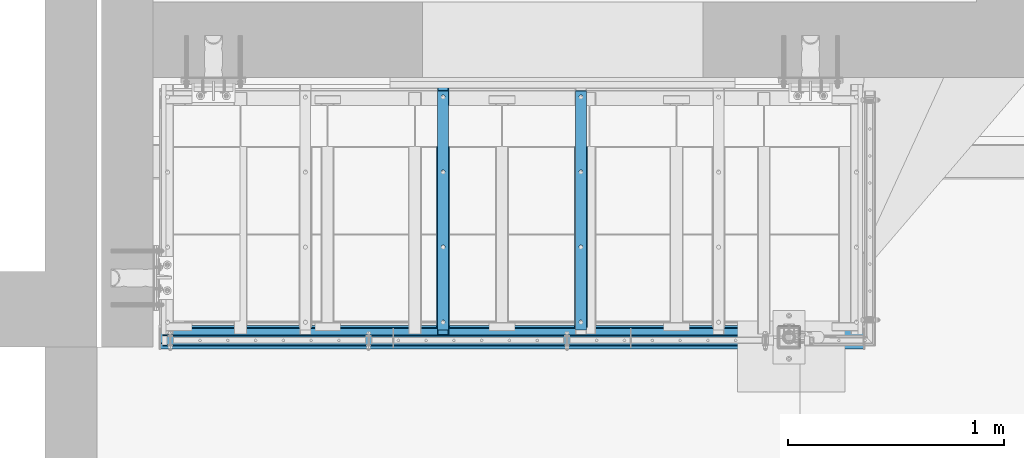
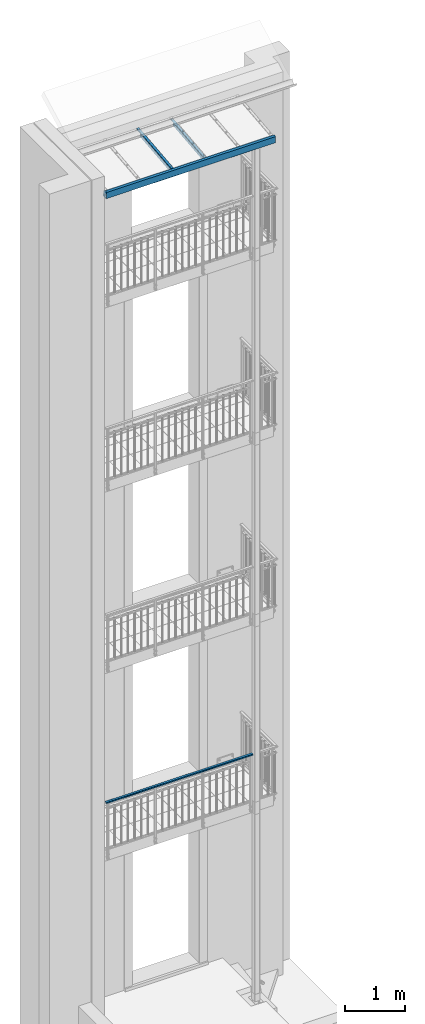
# One storey, part 42 of 162: 5 members, 2 beams, 21 openings.
"""IFC2X3 building model written with IfcOpenShell, lengths in millimetres."""

from ifc_helpers import new_model, entity, si_unit, converted_unit, point, frame, frame_2d, origin, origin_with_axes, origin_2d, origin_2d_with_axis, place, context, project, spatial, polyline, circle_curve, line_curve, trimmed, segment, composite_curve, hollow_rectangle, circle, outline, extrude, material, element, save


model = new_model("IFC2X3")

# Units and contexts
model_context = context("Model", 3, precision=1e-09, world=origin_with_axes())
ifc_project = project(units=[si_unit("LENGTHUNIT", "METRE", prefix="MILLI"), si_unit("AREAUNIT", "SQUARE_METRE"), si_unit("VOLUMEUNIT", "CUBIC_METRE"), converted_unit("PLANEANGLEUNIT", "DEGREE", entity("IfcPlaneAngleMeasure", 0.01745329), si_unit("PLANEANGLEUNIT", "RADIAN"), dimensions=[0, 0, 0, 0, 0, 0, 0])], contexts=[model_context])

# Site, building, storey
site_placement = place(None, origin_with_axes())
site = spatial("IfcSite", under=ifc_project, at=site_placement, Name="Hermannstra?e 1a, 60318 Frankfurt", CompositionType="ELEMENT")
building_placement = place(site_placement, origin_with_axes())
building = spatial("IfcBuilding", under=site, at=building_placement, Name="Struktur 1", CompositionType="ELEMENT")
storey_placement = place(building_placement, origin_with_axes())
storey = spatial("IfcBuildingStorey", under=building, at=storey_placement, Name="Default Storey", CompositionType="ELEMENT", Elevation=0.0)

# Beam, openings
ifc_material_1 = material(Name="S235JR")
beam_1_placement = place(None, frame((2568.31036482, 1515.609373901, 4940.0), z_axis=(-1.0, 0.0, 0.0), x_axis=(0.0, 0.0, -1.0)))
beam_1 = element("IfcBeam", 1, at=beam_1_placement, inside=storey, material=ifc_material_1, Name="-", ObjectType="-", context=model_context, shape_type="SweptSolid", body=[
    extrude(hollow_rectangle(XDim=30.0, YDim=50.0, WallThickness=3.0, InnerFilletRadius=3.0, OuterFilletRadius=6.0, at=origin_2d()), origin(), (0.0, 0.0, -1.0), 2829.999),
])
opening_1_placement = place(beam_1_placement, frame((11.5, 0.0, -29.998), z_axis=(-1.0, 0.0, 0.0), x_axis=(0.0, -1.0, 0.0)))
element("IfcOpeningElement", 2, at=opening_1_placement, cuts=beam_1, ObjectType="Opening", context=model_context, shape_type="SweptSolid", body=[
    extrude(circle(Radius=5.001, at=frame_2d((0.0, -5.001), x_axis=(1.0, 0.0))), origin(), (0.0, 0.0, -1.0), 4.0),
])
opening_2_placement = place(beam_1_placement, frame((11.5, 0.0, -949.998), z_axis=(-1.0, 0.0, 0.0), x_axis=(0.0, -1.0, 0.0)))
element("IfcOpeningElement", 3, at=opening_2_placement, cuts=beam_1, ObjectType="Opening", context=model_context, shape_type="SweptSolid", body=[
    extrude(circle(Radius=5.001, at=frame_2d((0.0, -5.001), x_axis=(1.0, 0.0))), origin(), (0.0, 0.0, -1.0), 4.0),
])
opening_3_placement = place(beam_1_placement, frame((11.5, 0.0, -1869.998), z_axis=(-1.0, 0.0, 0.0), x_axis=(0.0, -1.0, 0.0)))
element("IfcOpeningElement", 4, at=opening_3_placement, cuts=beam_1, ObjectType="Opening", context=model_context, shape_type="SweptSolid", body=[
    extrude(circle(Radius=5.001, at=frame_2d((0.0, -5.001), x_axis=(1.0, 0.0))), origin(), (0.0, 0.0, -1.0), 4.0),
])
opening_4_placement = place(beam_1_placement, frame((11.5, 0.0, -2789.998), z_axis=(-1.0, 0.0, 0.0), x_axis=(0.0, -1.0, 0.0)))
element("IfcOpeningElement", 5, at=opening_4_placement, cuts=beam_1, ObjectType="Opening", context=model_context, shape_type="SweptSolid", body=[
    extrude(circle(Radius=5.001, at=frame_2d((0.0, -5.001), x_axis=(1.0, 0.0))), origin(), (0.0, 0.0, -1.0), 4.0),
])

# Beam, opening
ifc_material_2 = material(Name="S355JR")
beam_2_placement = place(None, frame((5818.30936482, 1531.109377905, 17354.374368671), z_axis=(1.0, 0.0, 0.0), x_axis=(0.0, 1.0, 0.0)))
beam_2 = element("IfcBeam", 6, at=beam_2_placement, inside=storey, material=ifc_material_2, Name="-", ObjectType="-", context=model_context, shape_type="SweptSolid", body=[
    extrude(outline(composite_curve([segment(trimmed(circle_curve(frame_2d((45.504487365, -68.374368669), x_axis=(-1.0, 0.0)), 4.000000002), [point((49.482574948, -67.956254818))], [point((45.504487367, -72.374368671))], False, "CARTESIAN"), True, "CONTINUOUS"), segment(trimmed(line_curve((45.504487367, -72.374368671), (-1.0, 0.0), 92.004487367), [point((45.504487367, -72.374368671))], [point((-46.5, -72.374368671))], True, "CARTESIAN"), True, "CONTINUOUS"), segment(trimmed(circle_curve(frame_2d((-46.499999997, -68.374368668), x_axis=(-1.0, 0.0)), 4.000000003), [point((-46.5, -72.374368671))], [point((-50.5, -68.374368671))], False, "CARTESIAN"), True, "CONTINUOUS"), segment(trimmed(line_curve((-50.5, -68.374368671), (0.0, 1.0), 117.272077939), [point((-50.5, -68.374368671))], [point((-50.5, 48.897709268))], True, "CARTESIAN"), True, "CONTINUOUS"), segment(trimmed(circle_curve(frame_2d((-46.499999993, 48.897709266), x_axis=(-1.0, 0.0)), 4.000000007), [point((-50.5, 48.897709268))], [point((-49.328427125, 51.726136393))], False, "CARTESIAN"), True, "CONTINUOUS"), segment(trimmed(line_curve((-49.328427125, 51.726136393), (0.707106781, 0.707106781), 31.272077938), [point((-49.328427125, 51.726136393))], [point((-27.215728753, 73.838834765))], True, "CARTESIAN"), True, "CONTINUOUS"), segment(trimmed(line_curve((-27.215728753, 73.838834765), (-0.707106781, 0.707106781), 4.999999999), [point((-27.215728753, 73.838834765))], [point((-30.751262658, 77.374368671))], True, "CARTESIAN"), True, "CONTINUOUS"), segment(trimmed(line_curve((-30.751262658, 77.374368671), (-0.707106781, -0.707106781), 31.272077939), [point((-30.751262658, 77.374368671))], [point((-52.863961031, 55.261670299))], True, "CARTESIAN"), True, "CONTINUOUS"), segment(trimmed(circle_curve(frame_2d((-46.499999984, 48.897709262), x_axis=(1.0, 0.0)), 9.000000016), [point((-52.863961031, 55.261670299))], [point((-55.5, 48.897709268))], True, "CARTESIAN"), True, "CONTINUOUS"), segment(trimmed(line_curve((-55.5, 48.897709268), (0.0, -1.0), 117.272077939), [point((-55.5, 48.897709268))], [point((-55.5, -68.374368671))], True, "CARTESIAN"), True, "CONTINUOUS"), segment(trimmed(circle_curve(frame_2d((-46.499999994, -68.374368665), x_axis=(1.0, 0.0)), 9.000000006), [point((-55.5, -68.374368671))], [point((-46.5, -77.374368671))], True, "CARTESIAN"), True, "CONTINUOUS"), segment(trimmed(line_curve((-46.5, -77.374368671), (1.0, 0.0), 92.004487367), [point((-46.5, -77.374368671))], [point((45.504487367, -77.374368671))], True, "CARTESIAN"), True, "CONTINUOUS"), segment(trimmed(circle_curve(frame_2d((45.504487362, -68.374368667), x_axis=(1.0, 0.0)), 9.000000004), [point((45.504487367, -77.374368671))], [point((54.455184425, -67.433612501))], True, "CARTESIAN"), True, "CONTINUOUS"), segment(trimmed(line_curve((54.455184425, -67.433612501), (-0.104528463, 0.994521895), 100.004487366), [point((54.455184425, -67.433612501))], [point((44.001869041, 32.02303982))], True, "CARTESIAN"), True, "CONTINUOUS"), segment(trimmed(line_curve((44.001869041, 32.02303982), (-0.994521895, -0.104528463), 5.0), [point((44.001869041, 32.02303982))], [point((39.029259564, 31.500397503))], True, "CARTESIAN"), True, "CONTINUOUS"), segment(trimmed(line_curve((39.029259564, 31.500397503), (0.104528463, -0.994521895), 100.004487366), [point((39.029259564, 31.500397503))], [point((49.482574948, -67.956254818))], True, "CARTESIAN"), True, "CONTINUOUS")], self_intersect=False)), origin(), (0.0, 0.0, -1.0), 3260.0),
])
opening_5_placement = place(beam_2_placement, frame((-0.500004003, -77.874368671, -345.0), z_axis=(0.0, 1.0, 0.0), x_axis=(0.0, 0.0, 1.0)))
element("IfcOpeningElement", 7, at=opening_5_placement, cuts=beam_2, ObjectType="Opening", context=model_context, shape_type="SweptSolid", body=[
    extrude(circle(Radius=20.001, at=origin_2d_with_axis()), origin(), (0.0, 0.0, 1.0), 6.0),
])

# Member, openings
ifc_material_3 = material(Name="Gummi")
member_1_placement = place(None, frame((3868.80936482, 1565.009235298, 17386.843906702), z_axis=(0.0, -0.994521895, -0.104528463), x_axis=(1.0, 0.0, 0.0)))
member_1 = element("IfcMember", 8, at=member_1_placement, inside=storey, material=ifc_material_3, Name="Girder", ObjectType="Girder", context=model_context, shape_type="SweptSolid", body=[
    extrude(outline(polyline([(-25.0, 1.5), (-25.0, -1.5), (25.0, -1.5), (25.0, 1.5), (-25.0, 1.5)])), origin(), (0.0, 0.0, -1.0), 1114.995580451),
])
opening_6_placement = place(member_1_placement, frame((2e-09, -2.0, -37.497790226), z_axis=(0.0, 1.0, 0.0), x_axis=(1.0, 0.0, 0.0)))
element("IfcOpeningElement", 9, at=opening_6_placement, cuts=member_1, ObjectType="Opening", context=model_context, shape_type="SweptSolid", body=[
    extrude(circle(Radius=8.001, at=origin_2d_with_axis()), origin(), (0.0, 0.0, 1.0), 4.0),
])
opening_7_placement = place(member_1_placement, frame((2e-09, -2.0, -737.497790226), z_axis=(0.0, 1.0, 0.0), x_axis=(1.0, 0.0, 0.0)))
element("IfcOpeningElement", 10, at=opening_7_placement, cuts=member_1, ObjectType="Opening", context=model_context, shape_type="SweptSolid", body=[
    extrude(circle(Radius=8.001, at=origin_2d_with_axis()), origin(), (0.0, 0.0, 1.0), 4.0),
])
opening_8_placement = place(member_1_placement, frame((2e-09, -2.0, -387.497790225), z_axis=(0.0, 1.0, 0.0), x_axis=(1.0, 0.0, 0.0)))
element("IfcOpeningElement", 11, at=opening_8_placement, cuts=member_1, ObjectType="Opening", context=model_context, shape_type="SweptSolid", body=[
    extrude(circle(Radius=8.001, at=origin_2d_with_axis()), origin(), (0.0, 0.0, 1.0), 4.0),
])
opening_9_placement = place(member_1_placement, frame((2e-09, -2.0, -1087.497790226), z_axis=(0.0, 1.0, 0.0), x_axis=(1.0, 0.0, 0.0)))
element("IfcOpeningElement", 12, at=opening_9_placement, cuts=member_1, ObjectType="Opening", context=model_context, shape_type="SweptSolid", body=[
    extrude(circle(Radius=8.001, at=origin_2d_with_axis()), origin(), (0.0, 0.0, 1.0), 4.0),
])

ifc_material_4 = material(Name="Alu")
member_2_placement = place(None, frame((3868.80936482, 1543.575957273, 17399.432480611), z_axis=(0.0, -0.994521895, -0.104528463), x_axis=(1.0, 0.0, 0.0)))
member_2 = element("IfcMember", 13, at=member_2_placement, inside=storey, material=ifc_material_4, Name="Girder", ObjectType="Girder", context=model_context, shape_type="SweptSolid", body=[
    extrude(outline(composite_curve([segment(trimmed(line_curve((10.75, -4.5), (1.0, 0.0), 0.5), [point((10.75, -4.5))], [point((11.25, -4.5))], True, "CARTESIAN"), True, "CONTINUOUS"), segment(trimmed(line_curve((11.25, -4.5), (0.0, 1.0), 1.0), [point((11.25, -4.5))], [point((11.25, -3.5))], True, "CARTESIAN"), True, "CONTINUOUS"), segment(trimmed(line_curve((11.25, -3.5), (1.0, 0.0), 1.0), [point((11.25, -3.5))], [point((12.25, -3.5))], True, "CARTESIAN"), True, "CONTINUOUS"), segment(trimmed(line_curve((12.25, -3.5), (0.0, -1.0), 1.0), [point((12.25, -3.5))], [point((12.25, -4.5))], True, "CARTESIAN"), True, "CONTINUOUS"), segment(trimmed(line_curve((12.25, -4.5), (1.0, 0.0), 1.0), [point((12.25, -4.5))], [point((13.25, -4.5))], True, "CARTESIAN"), True, "CONTINUOUS"), segment(trimmed(line_curve((13.25, -4.5), (0.0, 1.0), 1.0), [point((13.25, -4.5))], [point((13.25, -3.5))], True, "CARTESIAN"), True, "CONTINUOUS"), segment(trimmed(line_curve((13.25, -3.5), (1.0, 0.0), 1.0), [point((13.25, -3.5))], [point((14.25, -3.5))], True, "CARTESIAN"), True, "CONTINUOUS"), segment(trimmed(line_curve((14.25, -3.5), (0.0, -1.0), 1.0), [point((14.25, -3.5))], [point((14.25, -4.5))], True, "CARTESIAN"), True, "CONTINUOUS"), segment(trimmed(line_curve((14.25, -4.5), (1.0, 0.0), 1.0), [point((14.25, -4.5))], [point((15.25, -4.5))], True, "CARTESIAN"), True, "CONTINUOUS"), segment(trimmed(line_curve((15.25, -4.5), (0.0, 1.0), 1.0), [point((15.25, -4.5))], [point((15.25, -3.5))], True, "CARTESIAN"), True, "CONTINUOUS"), segment(trimmed(line_curve((15.25, -3.5), (1.0, 0.0), 1.0), [point((15.25, -3.5))], [point((16.25, -3.5))], True, "CARTESIAN"), True, "CONTINUOUS"), segment(trimmed(line_curve((16.25, -3.5), (0.0, -1.0), 1.0), [point((16.25, -3.5))], [point((16.25, -4.5))], True, "CARTESIAN"), True, "CONTINUOUS"), segment(trimmed(line_curve((16.25, -4.5), (1.0, 0.0), 1.0), [point((16.25, -4.5))], [point((17.25, -4.5))], True, "CARTESIAN"), True, "CONTINUOUS"), segment(trimmed(line_curve((17.25, -4.5), (0.0, 1.0), 1.0), [point((17.25, -4.5))], [point((17.25, -3.5))], True, "CARTESIAN"), True, "CONTINUOUS"), segment(trimmed(line_curve((17.25, -3.5), (1.0, 0.0), 1.0), [point((17.25, -3.5))], [point((18.25, -3.5))], True, "CARTESIAN"), True, "CONTINUOUS"), segment(trimmed(line_curve((18.25, -3.5), (0.0, -1.0), 1.0), [point((18.25, -3.5))], [point((18.25, -4.5))], True, "CARTESIAN"), True, "CONTINUOUS"), segment(trimmed(line_curve((18.25, -4.5), (1.0, 0.0), 1.0), [point((18.25, -4.5))], [point((19.25, -4.5))], True, "CARTESIAN"), True, "CONTINUOUS"), segment(trimmed(line_curve((19.25, -4.5), (0.0, 1.0), 1.0), [point((19.25, -4.5))], [point((19.25, -3.5))], True, "CARTESIAN"), True, "CONTINUOUS"), segment(trimmed(line_curve((19.25, -3.5), (1.0, 0.0), 1.0), [point((19.25, -3.5))], [point((20.25, -3.5))], True, "CARTESIAN"), True, "CONTINUOUS"), segment(trimmed(line_curve((20.25, -3.5), (0.0, -1.0), 1.0), [point((20.25, -3.5))], [point((20.25, -4.5))], True, "CARTESIAN"), True, "CONTINUOUS"), segment(trimmed(line_curve((20.25, -4.5), (1.0, 0.0), 1.0), [point((20.25, -4.5))], [point((21.25, -4.5))], True, "CARTESIAN"), True, "CONTINUOUS"), segment(trimmed(line_curve((21.25, -4.5), (0.0, 1.0), 1.0), [point((21.25, -4.5))], [point((21.25, -3.5))], True, "CARTESIAN"), True, "CONTINUOUS"), segment(trimmed(line_curve((21.25, -3.5), (1.0, 0.0), 1.0), [point((21.25, -3.5))], [point((22.25, -3.5))], True, "CARTESIAN"), True, "CONTINUOUS"), segment(trimmed(line_curve((22.25, -3.5), (0.0, -1.0), 1.0), [point((22.25, -3.5))], [point((22.25, -4.5))], True, "CARTESIAN"), True, "CONTINUOUS"), segment(trimmed(line_curve((22.25, -4.5), (1.0, 0.0), 1.0), [point((22.25, -4.5))], [point((23.25, -4.5))], True, "CARTESIAN"), True, "CONTINUOUS"), segment(trimmed(line_curve((23.25, -4.5), (0.0, 1.0), 1.0), [point((23.25, -4.5))], [point((23.25, -3.5))], True, "CARTESIAN"), True, "CONTINUOUS"), segment(trimmed(line_curve((23.25, -3.5), (1.0, 0.0), 1.0), [point((23.25, -3.5))], [point((24.25, -3.5))], True, "CARTESIAN"), True, "CONTINUOUS"), segment(trimmed(line_curve((24.25, -3.5), (0.0, -1.0), 1.0), [point((24.25, -3.5))], [point((24.25, -4.5))], True, "CARTESIAN"), True, "CONTINUOUS"), segment(trimmed(line_curve((24.25, -4.5), (1.0, 0.0), 1.0), [point((24.25, -4.5))], [point((25.25, -4.5))], True, "CARTESIAN"), True, "CONTINUOUS"), segment(trimmed(line_curve((25.25, -4.5), (0.0, 1.0), 1.0), [point((25.25, -4.5))], [point((25.25, -3.5))], True, "CARTESIAN"), True, "CONTINUOUS"), segment(trimmed(line_curve((25.25, -3.5), (1.0, 0.0), 1.0), [point((25.25, -3.5))], [point((26.25, -3.5))], True, "CARTESIAN"), True, "CONTINUOUS"), segment(trimmed(line_curve((26.25, -3.5), (0.0, -1.0), 1.0), [point((26.25, -3.5))], [point((26.25, -4.5))], True, "CARTESIAN"), True, "CONTINUOUS"), segment(trimmed(line_curve((26.25, -4.5), (1.0, 0.0), 0.5), [point((26.25, -4.5))], [point((26.75, -4.5))], True, "CARTESIAN"), True, "CONTINUOUS"), segment(trimmed(line_curve((26.75, -4.5), (0.0, 1.0), 4.0), [point((26.75, -4.5))], [point((26.75, -0.5))], True, "CARTESIAN"), True, "CONTINUOUS"), segment(trimmed(line_curve((26.75, -0.5), (-1.0, 0.0), 1.75), [point((26.75, -0.5))], [point((25.0, -0.5))], True, "CARTESIAN"), True, "CONTINUOUS"), segment(trimmed(line_curve((25.0, -0.5), (0.0, 1.0), 1.5), [point((25.0, -0.5))], [point((25.0, 1.0))], True, "CARTESIAN"), True, "CONTINUOUS"), segment(trimmed(circle_curve(frame_2d((21.499999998, 0.999999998), x_axis=(1.0, 0.0)), 3.500000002), [point((25.0, 1.0))], [point((21.5, 4.5))], True, "CARTESIAN"), True, "CONTINUOUS"), segment(trimmed(line_curve((21.5, 4.5), (-1.0, 0.0), 43.0), [point((21.5, 4.5))], [point((-21.5, 4.5))], True, "CARTESIAN"), True, "CONTINUOUS"), segment(trimmed(circle_curve(frame_2d((-21.499999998, 0.999999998), x_axis=(1.0, 0.0)), 3.500000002), [point((-21.5, 4.5))], [point((-25.0, 1.0))], True, "CARTESIAN"), True, "CONTINUOUS"), segment(trimmed(line_curve((-25.0, 1.0), (0.0, -1.0), 1.5), [point((-25.0, 1.0))], [point((-25.0, -0.5))], True, "CARTESIAN"), True, "CONTINUOUS"), segment(trimmed(line_curve((-25.0, -0.5), (-1.0, 0.0), 1.75), [point((-25.0, -0.5))], [point((-26.75, -0.5))], True, "CARTESIAN"), True, "CONTINUOUS"), segment(trimmed(line_curve((-26.75, -0.5), (0.0, -1.0), 4.0), [point((-26.75, -0.5))], [point((-26.75, -4.5))], True, "CARTESIAN"), True, "CONTINUOUS"), segment(trimmed(line_curve((-26.75, -4.5), (1.0, 0.0), 0.5), [point((-26.75, -4.5))], [point((-26.25, -4.5))], True, "CARTESIAN"), True, "CONTINUOUS"), segment(trimmed(line_curve((-26.25, -4.5), (0.0, 1.0), 1.0), [point((-26.25, -4.5))], [point((-26.25, -3.5))], True, "CARTESIAN"), True, "CONTINUOUS"), segment(trimmed(line_curve((-26.25, -3.5), (1.0, 0.0), 1.0), [point((-26.25, -3.5))], [point((-25.25, -3.5))], True, "CARTESIAN"), True, "CONTINUOUS"), segment(trimmed(line_curve((-25.25, -3.5), (0.0, -1.0), 1.0), [point((-25.25, -3.5))], [point((-25.25, -4.5))], True, "CARTESIAN"), True, "CONTINUOUS"), segment(trimmed(line_curve((-25.25, -4.5), (1.0, 0.0), 1.0), [point((-25.25, -4.5))], [point((-24.25, -4.5))], True, "CARTESIAN"), True, "CONTINUOUS"), segment(trimmed(line_curve((-24.25, -4.5), (0.0, 1.0), 1.0), [point((-24.25, -4.5))], [point((-24.25, -3.5))], True, "CARTESIAN"), True, "CONTINUOUS"), segment(trimmed(line_curve((-24.25, -3.5), (1.0, 0.0), 1.0), [point((-24.25, -3.5))], [point((-23.25, -3.5))], True, "CARTESIAN"), True, "CONTINUOUS"), segment(trimmed(line_curve((-23.25, -3.5), (0.0, -1.0), 1.0), [point((-23.25, -3.5))], [point((-23.25, -4.5))], True, "CARTESIAN"), True, "CONTINUOUS"), segment(trimmed(line_curve((-23.25, -4.5), (1.0, 0.0), 1.0), [point((-23.25, -4.5))], [point((-22.25, -4.5))], True, "CARTESIAN"), True, "CONTINUOUS"), segment(trimmed(line_curve((-22.25, -4.5), (0.0, 1.0), 1.0), [point((-22.25, -4.5))], [point((-22.25, -3.5))], True, "CARTESIAN"), True, "CONTINUOUS"), segment(trimmed(line_curve((-22.25, -3.5), (1.0, 0.0), 1.0), [point((-22.25, -3.5))], [point((-21.25, -3.5))], True, "CARTESIAN"), True, "CONTINUOUS"), segment(trimmed(line_curve((-21.25, -3.5), (0.0, -1.0), 1.0), [point((-21.25, -3.5))], [point((-21.25, -4.5))], True, "CARTESIAN"), True, "CONTINUOUS"), segment(trimmed(line_curve((-21.25, -4.5), (1.0, 0.0), 1.0), [point((-21.25, -4.5))], [point((-20.25, -4.5))], True, "CARTESIAN"), True, "CONTINUOUS"), segment(trimmed(line_curve((-20.25, -4.5), (0.0, 1.0), 1.0), [point((-20.25, -4.5))], [point((-20.25, -3.5))], True, "CARTESIAN"), True, "CONTINUOUS"), segment(trimmed(line_curve((-20.25, -3.5), (1.0, 0.0), 1.0), [point((-20.25, -3.5))], [point((-19.25, -3.5))], True, "CARTESIAN"), True, "CONTINUOUS"), segment(trimmed(line_curve((-19.25, -3.5), (0.0, -1.0), 1.0), [point((-19.25, -3.5))], [point((-19.25, -4.5))], True, "CARTESIAN"), True, "CONTINUOUS"), segment(trimmed(line_curve((-19.25, -4.5), (1.0, 0.0), 1.0), [point((-19.25, -4.5))], [point((-18.25, -4.5))], True, "CARTESIAN"), True, "CONTINUOUS"), segment(trimmed(line_curve((-18.25, -4.5), (0.0, 1.0), 1.0), [point((-18.25, -4.5))], [point((-18.25, -3.5))], True, "CARTESIAN"), True, "CONTINUOUS"), segment(trimmed(line_curve((-18.25, -3.5), (1.0, 0.0), 1.0), [point((-18.25, -3.5))], [point((-17.25, -3.5))], True, "CARTESIAN"), True, "CONTINUOUS"), segment(trimmed(line_curve((-17.25, -3.5), (0.0, -1.0), 1.0), [point((-17.25, -3.5))], [point((-17.25, -4.5))], True, "CARTESIAN"), True, "CONTINUOUS"), segment(trimmed(line_curve((-17.25, -4.5), (1.0, 0.0), 1.0), [point((-17.25, -4.5))], [point((-16.25, -4.5))], True, "CARTESIAN"), True, "CONTINUOUS"), segment(trimmed(line_curve((-16.25, -4.5), (0.0, 1.0), 1.0), [point((-16.25, -4.5))], [point((-16.25, -3.5))], True, "CARTESIAN"), True, "CONTINUOUS"), segment(trimmed(line_curve((-16.25, -3.5), (1.0, 0.0), 1.0), [point((-16.25, -3.5))], [point((-15.25, -3.5))], True, "CARTESIAN"), True, "CONTINUOUS"), segment(trimmed(line_curve((-15.25, -3.5), (0.0, -1.0), 1.0), [point((-15.25, -3.5))], [point((-15.25, -4.5))], True, "CARTESIAN"), True, "CONTINUOUS"), segment(trimmed(line_curve((-15.25, -4.5), (1.0, 0.0), 1.0), [point((-15.25, -4.5))], [point((-14.25, -4.5))], True, "CARTESIAN"), True, "CONTINUOUS"), segment(trimmed(line_curve((-14.25, -4.5), (0.0, 1.0), 1.0), [point((-14.25, -4.5))], [point((-14.25, -3.5))], True, "CARTESIAN"), True, "CONTINUOUS"), segment(trimmed(line_curve((-14.25, -3.5), (1.0, 0.0), 1.0), [point((-14.25, -3.5))], [point((-13.25, -3.5))], True, "CARTESIAN"), True, "CONTINUOUS"), segment(trimmed(line_curve((-13.25, -3.5), (0.0, -1.0), 1.0), [point((-13.25, -3.5))], [point((-13.25, -4.5))], True, "CARTESIAN"), True, "CONTINUOUS"), segment(trimmed(line_curve((-13.25, -4.5), (1.0, 0.0), 1.0), [point((-13.25, -4.5))], [point((-12.25, -4.5))], True, "CARTESIAN"), True, "CONTINUOUS"), segment(trimmed(line_curve((-12.25, -4.5), (0.0, 1.0), 1.0), [point((-12.25, -4.5))], [point((-12.25, -3.5))], True, "CARTESIAN"), True, "CONTINUOUS"), segment(trimmed(line_curve((-12.25, -3.5), (1.0, 0.0), 1.0), [point((-12.25, -3.5))], [point((-11.25, -3.5))], True, "CARTESIAN"), True, "CONTINUOUS"), segment(trimmed(line_curve((-11.25, -3.5), (0.0, -1.0), 1.0), [point((-11.25, -3.5))], [point((-11.25, -4.5))], True, "CARTESIAN"), True, "CONTINUOUS"), segment(trimmed(line_curve((-11.25, -4.5), (1.0, 0.0), 0.5), [point((-11.25, -4.5))], [point((-10.75, -4.5))], True, "CARTESIAN"), True, "CONTINUOUS"), segment(trimmed(line_curve((-10.75, -4.5), (0.0, 1.0), 4.0), [point((-10.75, -4.5))], [point((-10.75, -0.5))], True, "CARTESIAN"), True, "CONTINUOUS"), segment(trimmed(line_curve((-10.75, -0.5), (-1.0, 0.0), 1.75), [point((-10.75, -0.5))], [point((-12.5, -0.5))], True, "CARTESIAN"), True, "CONTINUOUS"), segment(trimmed(line_curve((-12.5, -0.5), (0.0, 1.0), 3.0), [point((-12.5, -0.5))], [point((-12.5, 2.5))], True, "CARTESIAN"), True, "CONTINUOUS"), segment(trimmed(line_curve((-12.5, 2.5), (1.0, 0.0), 25.0), [point((-12.5, 2.5))], [point((12.5, 2.5))], True, "CARTESIAN"), True, "CONTINUOUS"), segment(trimmed(line_curve((12.5, 2.5), (0.0, -1.0), 3.0), [point((12.5, 2.5))], [point((12.5, -0.5))], True, "CARTESIAN"), True, "CONTINUOUS"), segment(trimmed(line_curve((12.5, -0.5), (-1.0, 0.0), 1.75), [point((12.5, -0.5))], [point((10.75, -0.5))], True, "CARTESIAN"), True, "CONTINUOUS"), segment(trimmed(line_curve((10.75, -0.5), (0.0, -1.0), 4.0), [point((10.75, -0.5))], [point((10.75, -4.5))], True, "CARTESIAN"), True, "CONTINUOUS")], self_intersect=False), holes=[composite_curve([segment(trimmed(line_curve((16.25, -0.5), (1.0, 0.0), 5.0), [point((16.25, -0.5))], [point((21.25, -0.5))], True, "CARTESIAN"), True, "CONTINUOUS"), segment(trimmed(line_curve((21.25, -0.5), (0.0, 1.0), 1.5), [point((21.25, -0.5))], [point((21.25, 1.0))], True, "CARTESIAN"), True, "CONTINUOUS"), segment(trimmed(line_curve((21.25, 1.0), (1.0, 0.0), 2.25), [point((21.25, 1.0))], [point((23.5, 1.0))], True, "CARTESIAN"), True, "CONTINUOUS"), segment(trimmed(circle_curve(frame_2d((21.499999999, 0.999999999), x_axis=(1.0, 0.0)), 2.000000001), [point((23.5, 1.0))], [point((21.5, 3.0))], True, "CARTESIAN"), True, "CONTINUOUS"), segment(trimmed(line_curve((21.5, 3.0), (-1.0, 0.0), 7.5), [point((21.5, 3.0))], [point((14.0, 3.0))], True, "CARTESIAN"), True, "CONTINUOUS"), segment(trimmed(line_curve((14.0, 3.0), (0.0, -1.0), 2.0), [point((14.0, 3.0))], [point((14.0, 1.0))], True, "CARTESIAN"), True, "CONTINUOUS"), segment(trimmed(line_curve((14.0, 1.0), (1.0, 0.0), 2.25), [point((14.0, 1.0))], [point((16.25, 1.0))], True, "CARTESIAN"), True, "CONTINUOUS"), segment(trimmed(line_curve((16.25, 1.0), (0.0, -1.0), 1.5), [point((16.25, 1.0))], [point((16.25, -0.5))], True, "CARTESIAN"), True, "CONTINUOUS")], self_intersect=False), composite_curve([segment(trimmed(line_curve((-16.25, -0.5), (0.0, 1.0), 1.5), [point((-16.25, -0.5))], [point((-16.25, 1.0))], True, "CARTESIAN"), True, "CONTINUOUS"), segment(trimmed(line_curve((-16.25, 1.0), (1.0, 0.0), 2.25), [point((-16.25, 1.0))], [point((-14.0, 1.0))], True, "CARTESIAN"), True, "CONTINUOUS"), segment(trimmed(line_curve((-14.0, 1.0), (0.0, 1.0), 2.0), [point((-14.0, 1.0))], [point((-14.0, 3.0))], True, "CARTESIAN"), True, "CONTINUOUS"), segment(trimmed(line_curve((-14.0, 3.0), (-1.0, 0.0), 7.5), [point((-14.0, 3.0))], [point((-21.5, 3.0))], True, "CARTESIAN"), True, "CONTINUOUS"), segment(trimmed(circle_curve(frame_2d((-21.499999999, 0.999999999), x_axis=(1.0, 0.0)), 2.000000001), [point((-21.5, 3.0))], [point((-23.5, 1.0))], True, "CARTESIAN"), True, "CONTINUOUS"), segment(trimmed(line_curve((-23.5, 1.0), (1.0, 0.0), 2.25), [point((-23.5, 1.0))], [point((-21.25, 1.0))], True, "CARTESIAN"), True, "CONTINUOUS"), segment(trimmed(line_curve((-21.25, 1.0), (0.0, -1.0), 1.5), [point((-21.25, 1.0))], [point((-21.25, -0.5))], True, "CARTESIAN"), True, "CONTINUOUS"), segment(trimmed(line_curve((-21.25, -0.5), (1.0, 0.0), 5.0), [point((-21.25, -0.5))], [point((-16.25, -0.5))], True, "CARTESIAN"), True, "CONTINUOUS")], self_intersect=False)]), origin(), (0.0, 0.0, -1.0), 1164.995580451),
])
opening_10_placement = place(member_2_placement, frame((2e-09, 2.0, -407.497790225), z_axis=(0.0, 1.0, 0.0), x_axis=(1.0, 0.0, 0.0)))
element("IfcOpeningElement", 14, at=opening_10_placement, cuts=member_2, ObjectType="Opening", context=model_context, shape_type="SweptSolid", body=[
    extrude(circle(Radius=6.001, at=origin_2d_with_axis()), origin(), (0.0, 0.0, 1.0), 3.0),
])
opening_11_placement = place(member_2_placement, frame((2e-09, 2.0, -757.497790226), z_axis=(0.0, 1.0, 0.0), x_axis=(1.0, 0.0, 0.0)))
element("IfcOpeningElement", 15, at=opening_11_placement, cuts=member_2, ObjectType="Opening", context=model_context, shape_type="SweptSolid", body=[
    extrude(circle(Radius=6.001, at=origin_2d_with_axis()), origin(), (0.0, 0.0, 1.0), 3.0),
])
opening_12_placement = place(member_2_placement, frame((2e-09, 2.0, -57.497790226), z_axis=(0.0, 1.0, 0.0), x_axis=(1.0, 0.0, 0.0)))
element("IfcOpeningElement", 16, at=opening_12_placement, cuts=member_2, ObjectType="Opening", context=model_context, shape_type="SweptSolid", body=[
    extrude(circle(Radius=6.001, at=origin_2d_with_axis()), origin(), (0.0, 0.0, 1.0), 3.0),
])
opening_13_placement = place(member_2_placement, frame((2e-09, 2.0, -1107.497790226), z_axis=(0.0, 1.0, 0.0), x_axis=(1.0, 0.0, 0.0)))
element("IfcOpeningElement", 17, at=opening_13_placement, cuts=member_2, ObjectType="Opening", context=model_context, shape_type="SweptSolid", body=[
    extrude(circle(Radius=6.001, at=origin_2d_with_axis()), origin(), (0.0, 0.0, 1.0), 3.0),
])

member_3_placement = place(None, frame((3868.80936482, 2577.737210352, 17461.612395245), z_axis=(0.0, 0.994521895, 0.104528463), x_axis=(0.0, -0.104528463, 0.994521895)))
member_3 = element("IfcMember", 18, at=member_3_placement, inside=storey, material=ifc_material_1, Name="-", ObjectType="-", context=model_context, shape_type="SweptSolid", body=[
    extrude(hollow_rectangle(XDim=60.0, YDim=60.0, WallThickness=3.0, InnerFilletRadius=3.0, OuterFilletRadius=6.0, at=origin_2d()), origin(), (0.0, 0.0, -1.0), 1004.995580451),
])
opening_14_placement = place(member_3_placement, frame((0.0, -26.5, 0.0), z_axis=(0.0, -1.0, 0.0), x_axis=(1.0, 0.0, 0.0)))
element("IfcOpeningElement", 19, at=opening_14_placement, cuts=member_3, ObjectType="Opening", context=model_context, shape_type="SweptSolid", body=[
    extrude(circle(Radius=6.001, at=frame_2d((0.0, -10.0), x_axis=(1.0, 0.0))), origin(), (0.0, 0.0, 1.0), 4.0),
])
opening_15_placement = place(member_3_placement, frame((0.0, 26.5, -794.995580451), z_axis=(0.0, 1.0, 0.0), x_axis=(1.0, 0.0, 0.0)))
element("IfcOpeningElement", 20, at=opening_15_placement, cuts=member_3, ObjectType="Opening", context=model_context, shape_type="SweptSolid", body=[
    extrude(circle(Radius=6.001, at=frame_2d((0.0, 200.0), x_axis=(1.0, 0.0))), origin(), (0.0, 0.0, 1.0), 4.0),
])

member_4_placement = place(None, frame((4507.80936482, 2577.737210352, 17461.612395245), z_axis=(0.0, 0.994521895, 0.104528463), x_axis=(0.0, -0.104528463, 0.994521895)))
member_4 = element("IfcMember", 21, at=member_4_placement, inside=storey, material=ifc_material_1, Name="-", ObjectType="-", context=model_context, shape_type="SweptSolid", body=[
    extrude(hollow_rectangle(XDim=60.0, YDim=60.0, WallThickness=3.0, InnerFilletRadius=3.0, OuterFilletRadius=6.0, at=origin_2d()), origin(), (0.0, 0.0, -1.0), 1004.995580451),
])
opening_16_placement = place(member_4_placement, frame((0.0, -26.5, 0.0), z_axis=(0.0, -1.0, 0.0), x_axis=(1.0, 0.0, 0.0)))
element("IfcOpeningElement", 22, at=opening_16_placement, cuts=member_4, ObjectType="Opening", context=model_context, shape_type="SweptSolid", body=[
    extrude(circle(Radius=6.001, at=frame_2d((0.0, -10.0), x_axis=(1.0, 0.0))), origin(), (0.0, 0.0, 1.0), 4.0),
])
opening_17_placement = place(member_4_placement, frame((0.0, 26.5, -794.995580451), z_axis=(0.0, 1.0, 0.0), x_axis=(1.0, 0.0, 0.0)))
element("IfcOpeningElement", 23, at=opening_17_placement, cuts=member_4, ObjectType="Opening", context=model_context, shape_type="SweptSolid", body=[
    extrude(circle(Radius=6.001, at=frame_2d((0.0, 200.0), x_axis=(1.0, 0.0))), origin(), (0.0, 0.0, 1.0), 4.0),
])

member_5_placement = place(None, frame((4507.80936482, 1565.009235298, 17386.843906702), z_axis=(0.0, -0.994521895, -0.104528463), x_axis=(1.0, 0.0, 0.0)))
member_5 = element("IfcMember", 24, at=member_5_placement, inside=storey, material=ifc_material_3, Name="Girder", ObjectType="Girder", context=model_context, shape_type="SweptSolid", body=[
    extrude(outline(polyline([(-25.0, 1.5), (-25.0, -1.5), (25.0, -1.5), (25.0, 1.5), (-25.0, 1.5)])), origin(), (0.0, 0.0, -1.0), 1114.995580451),
])
opening_18_placement = place(member_5_placement, frame((2e-09, -2.0, -37.497790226), z_axis=(0.0, 1.0, 0.0), x_axis=(1.0, 0.0, 0.0)))
element("IfcOpeningElement", 25, at=opening_18_placement, cuts=member_5, ObjectType="Opening", context=model_context, shape_type="SweptSolid", body=[
    extrude(circle(Radius=8.001, at=origin_2d_with_axis()), origin(), (0.0, 0.0, 1.0), 4.0),
])
opening_19_placement = place(member_5_placement, frame((2e-09, -2.0, -737.497790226), z_axis=(0.0, 1.0, 0.0), x_axis=(1.0, 0.0, 0.0)))
element("IfcOpeningElement", 26, at=opening_19_placement, cuts=member_5, ObjectType="Opening", context=model_context, shape_type="SweptSolid", body=[
    extrude(circle(Radius=8.001, at=origin_2d_with_axis()), origin(), (0.0, 0.0, 1.0), 4.0),
])
opening_20_placement = place(member_5_placement, frame((2e-09, -2.0, -1087.497790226), z_axis=(0.0, 1.0, 0.0), x_axis=(1.0, 0.0, 0.0)))
element("IfcOpeningElement", 27, at=opening_20_placement, cuts=member_5, ObjectType="Opening", context=model_context, shape_type="SweptSolid", body=[
    extrude(circle(Radius=8.001, at=origin_2d_with_axis()), origin(), (0.0, 0.0, 1.0), 4.0),
])
opening_21_placement = place(member_5_placement, frame((2e-09, -2.0, -387.497790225), z_axis=(0.0, 1.0, 0.0), x_axis=(1.0, 0.0, 0.0)))
element("IfcOpeningElement", 28, at=opening_21_placement, cuts=member_5, ObjectType="Opening", context=model_context, shape_type="SweptSolid", body=[
    extrude(circle(Radius=8.001, at=origin_2d_with_axis()), origin(), (0.0, 0.0, 1.0), 4.0),
])

save(model, "model.ifc")
